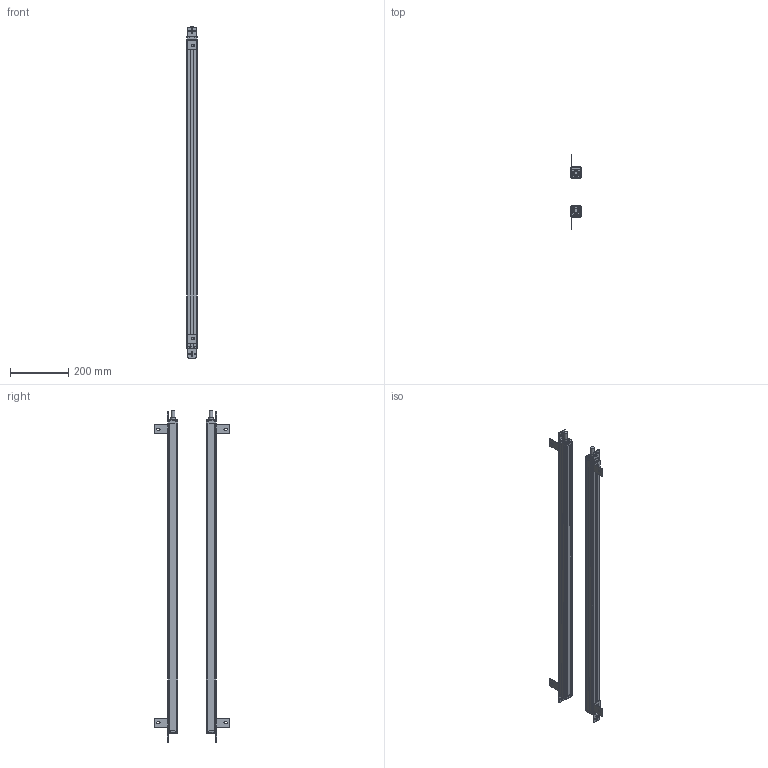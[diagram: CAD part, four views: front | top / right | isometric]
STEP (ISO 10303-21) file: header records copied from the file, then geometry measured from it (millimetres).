
FILE_DESCRIPTION(/* description */ (''),/* implementation_level */ '2;1');
FILE_NAME(/* name */ '2640_35X35.stp',/* time_stamp */ '2023-09-18T15:56:46+08:00',/* author */ (''),/* organization */ (''),/* preprocessor_version */ 'ST-DEVELOPER v16.7',/* originating_system */ 'SIEMENS PLM Software NX 12.0',/* authorisation */ '');
FILE_SCHEMA (('AP203_CONFIGURATION_CONTROLLED_3D_DESIGN_OF_MECHANICAL_PARTS_AND_ASSEMBLIES_MIM_LF { 1 0 10303 403 2 1 2}'));
Length unit declared in the file: millimetre
Products named in the file (1): 2640_35X35_stp
Bounding box: 35.41 x 258.01 x 1141.6 mm (x, y, z)
Volume: 1048372.6 mm3; surface area: 789454.8 mm2
Topology: 28 solids, 28 shells, 1182 faces, 3360 edges, 2260 vertices
Faces by surface type: plane 658, cylinder 464, cone 60
Full cylindrical faces by diameter (mm): 3.2 x8, 6 x24, 13 x2, 14.4 x2, 15 x2
Entity records: 39055 total; most frequent: DIRECTION 6832, CARTESIAN_POINT 6745, ORIENTED_EDGE 6612, EDGE_CURVE 3306, AXIS2_PLACEMENT_3D 2347, VERTEX_POINT 2244, LINE 2138, VECTOR 2138
